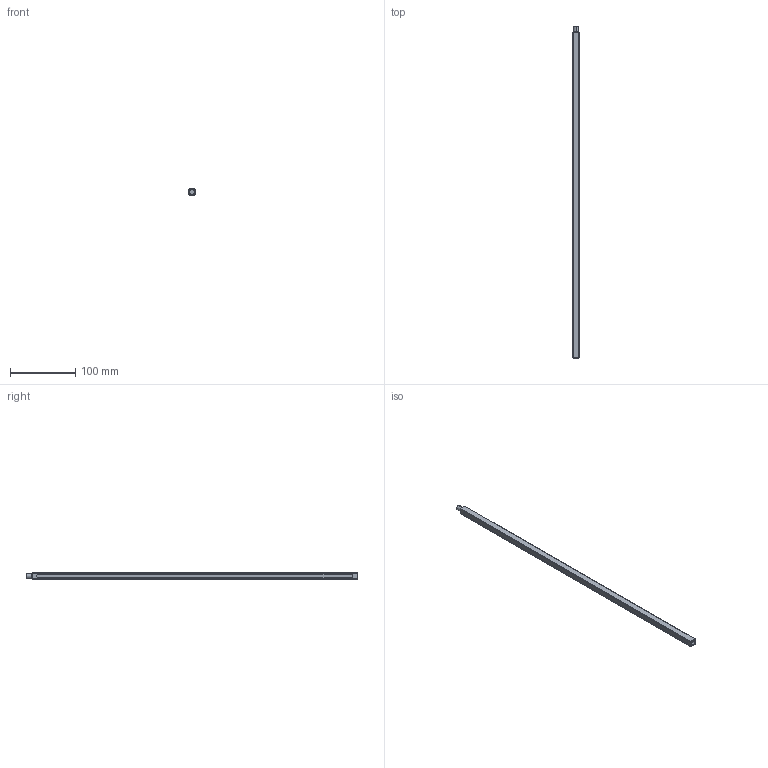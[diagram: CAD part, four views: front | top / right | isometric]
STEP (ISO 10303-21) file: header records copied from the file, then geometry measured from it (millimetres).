
FILE_DESCRIPTION (( 'STEP AP203' ), '1' );
FILE_NAME ('20200818.1-KMC50_WEB.STEP', '2020-08-19T11:06:47', ( '' ), ( '' ), 'SwSTEP 2.0', 'SolidWorks 2018', '' );
FILE_SCHEMA (( 'CONFIG_CONTROL_DESIGN' ));
Length unit declared in the file: millimetre
Products named in the file (1): 20200818.1-KMC50_WEB
Bounding box: 10 x 510.75 x 10 mm (x, y, z)
Volume: 45861.2 mm3; surface area: 21438.8 mm2
Topology: 1 solids, 1 shells, 66 faces, 153 edges, 94 vertices
Faces by surface type: plane 46, cylinder 20
Entity records: 1922 total; most frequent: DIRECTION 327, CARTESIAN_POINT 314, ORIENTED_EDGE 306, EDGE_CURVE 153, VECTOR 113, LINE 113, AXIS2_PLACEMENT_3D 107, VERTEX_POINT 94
